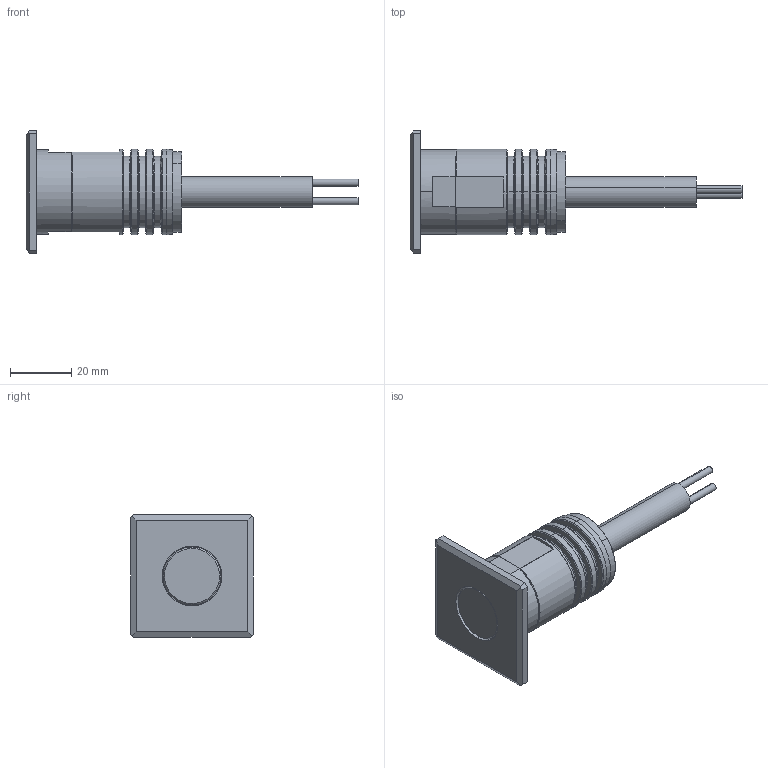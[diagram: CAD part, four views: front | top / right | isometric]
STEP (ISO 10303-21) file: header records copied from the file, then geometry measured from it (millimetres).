
FILE_DESCRIPTION (( 'STEP AP203' ), '1' );
FILE_NAME ('GROUND MICRO SQ.STEP', '2023-04-03T09:30:04', ( '' ), ( '' ), 'SwSTEP 2.0', 'SolidWorks 2017', '' );
FILE_SCHEMA (( 'CONFIG_CONTROL_DESIGN' ));
Length unit declared in the file: millimetre
Products named in the file (1): GROUND MICRO SQ
Bounding box: 108.65 x 40 x 40 mm (x, y, z)
Volume: 30694.2 mm3; surface area: 22262.9 mm2
Topology: 17 solids, 17 shells, 360 faces, 815 edges, 513 vertices
Faces by surface type: plane 160, cylinder 109, cone 70, torus 14, bspline 7
Entity records: 10331 total; most frequent: CARTESIAN_POINT 1986, DIRECTION 1817, ORIENTED_EDGE 1610, EDGE_CURVE 805, AXIS2_PLACEMENT_3D 678, VERTEX_POINT 513, LINE 461, VECTOR 461
